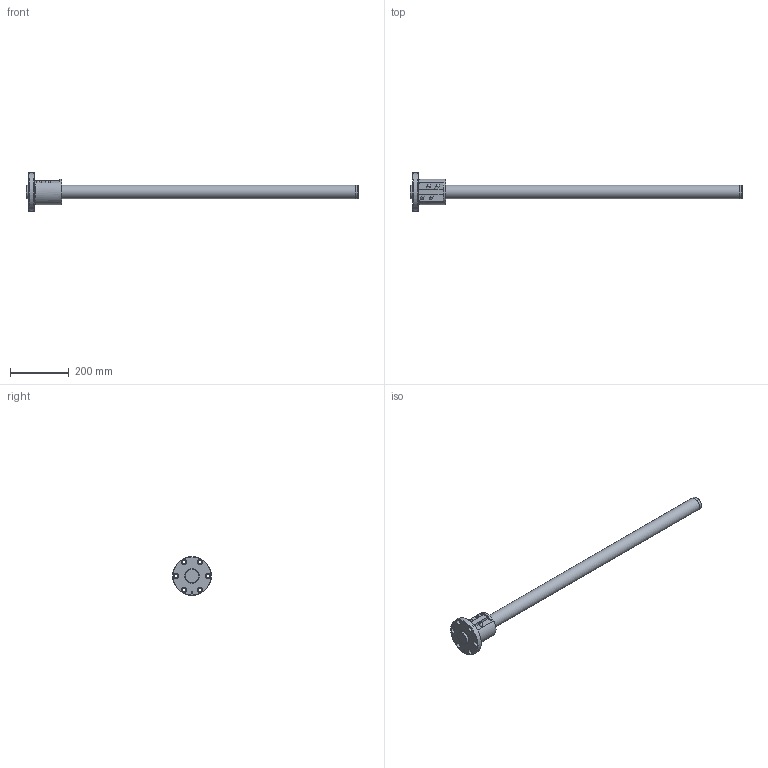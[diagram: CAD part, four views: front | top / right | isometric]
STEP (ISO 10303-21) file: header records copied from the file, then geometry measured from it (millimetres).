
FILE_DESCRIPTION( ( 'STEP AP203' ), ' ' );
FILE_NAME( 'p:/temp/worker_46/3360_3064/app_47_12018011815530931845995818fa3fd_000000_00_00_000000/format_0/BIF4510-5RRG0+1131LC0_10000.stp', '2018-01-18T14:53:10', ( '' ), ( '' ), ' ', 'PARTsolutions', ' ' );
FILE_SCHEMA( ( 'CONFIG_CONTROL_DESIGN' ) );
Length unit declared in the file: millimetre
Products named in the file (3): BIF4510-5RRG0+1131LC0_10000; _BIF 4510-5RR1000500 Shaft; _BIF 4510-5RR Nut
Assembly tree (2 placements, depth 2):
  BIF4510-5RRG0+1131LC0_10000
    _BIF 4510-5RR1000500 Shaft
    _BIF 4510-5RR Nut
Bounding box: 1131 x 132 x 132 mm (x, y, z)
Volume: 2374992.4 mm3; surface area: 243931.6 mm2
Topology: 2 solids, 2 shells, 74 faces, 162 edges, 105 vertices
Faces by surface type: cylinder 35, plane 27, cone 8, torus 4
Full cylindrical faces by diameter (mm): 4.917 x1, 6.2 x2, 11 x6, 17.5 x6, 44.5 x2, 45 x4, 49.2 x2, 88 x1, 132 x1
Entity records: 2378 total; most frequent: CARTESIAN_POINT 731, DIRECTION 340, ORIENTED_EDGE 246, AXIS2_PLACEMENT_3D 152, EDGE_LOOP 136, EDGE_CURVE 123, FACE_OUTER_BOUND 99, VERTEX_POINT 99
